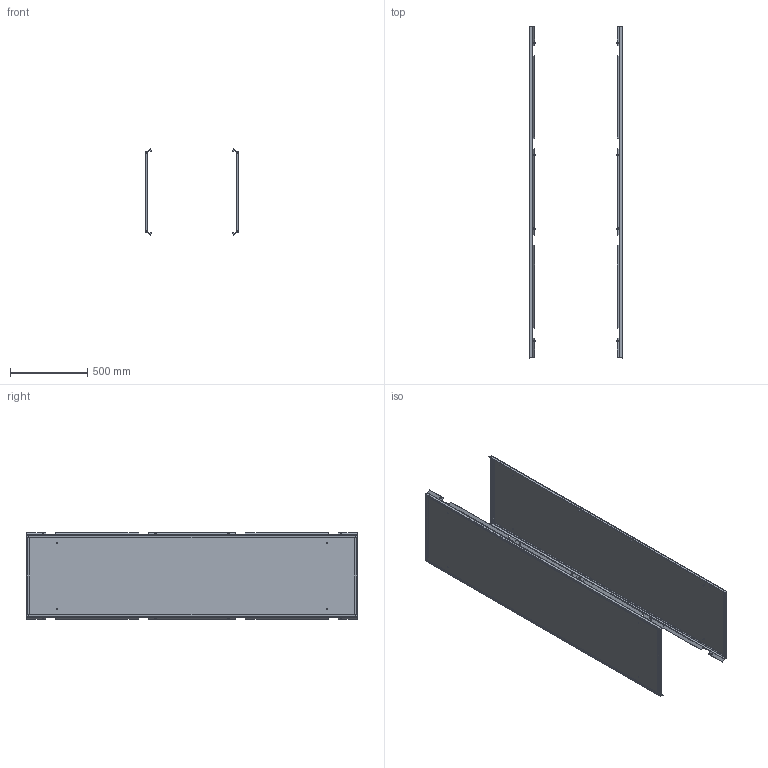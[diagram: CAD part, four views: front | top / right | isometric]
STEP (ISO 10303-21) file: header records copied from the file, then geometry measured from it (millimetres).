
FILE_DESCRIPTION (( 'STEP AP203' ), '1' );
FILE_NAME ('MA1.200.060622.20.00 AleSta-PS226 Áîêîâûå ïàíåëè AleSta 2200x600 (2 øò).STEP', '2025-02-19T14:41:11', ( '' ), ( '' ), 'SwSTEP 2.0', 'SolidWorks 2021', '' );
FILE_SCHEMA (( 'CONFIG_CONTROL_DESIGN' ));
Length unit declared in the file: millimetre
Products named in the file (6): Øïèëüêà Ì6õ12_˜¯¨«ìª  Œ6å12; Âèíò ñàìîíàðåçàþùèé ñ ïîòàéíîé ãîëîâêîé Ì5x16 DIN 7500 M TORX, êëàññ ïðî÷íîñòè 8.8, îöèíêîâàííàÿ ñòàëü_Œ5å16; MA1.200.060620.21.01 Ïîëîòíî ñòåíêè áîêîâîé 600õ2000_2200å600; MA1.200.060622.20.00 AleSta-PS226  Áîêîâûå ïàíåëè AleSta 2200x600 (2 øò); Óïëîòíèòåëü ïàíåëè íèæíåé_¯® ¢ëá®â¥ 600å2200; MA1.200.060620.21.00 Ñòåíêà áîêîâàÿ 600x2000_2200å600
Assembly tree (24 placements, depth 3):
  MA1.200.060622.20.00 AleSta-PS226  Áîêîâûå ïàíåëè AleSta 2200x600 (2 øò)
    MA1.200.060620.21.00 Ñòåíêà áîêîâàÿ 600x2000_2200å600  x2
      MA1.200.060620.21.01 Ïîëîòíî ñòåíêè áîêîâîé 600õ2000_2200å600
      Øïèëüêà Ì6õ12_˜¯¨«ìª  Œ6å12
      Óïëîòíèòåëü ïàíåëè íèæíåé_¯® ¢ëá®â¥ 600å2200
    Âèíò ñàìîíàðåçàþùèé ñ ïîòàéíîé ãîëîâêîé Ì5x16 DIN 7500 M TORX, êëàññ ïðî÷íîñòè 8.8, îöèíêîâàííàÿ ñòàëü_Œ5å16  x16
Bounding box: 606 x 2145 x 560.73 mm (x, y, z)
Volume: 3302868.7 mm3; surface area: 5610902.5 mm2
Topology: 28 solids, 28 shells, 1116 faces, 2788 edges, 1784 vertices
Faces by surface type: cylinder 636, plane 368, cone 80, bspline 16, torus 16
Entity records: 8629 total; most frequent: CARTESIAN_POINT 1714, DIRECTION 1281, ORIENTED_EDGE 1158, EDGE_CURVE 579, AXIS2_PLACEMENT_3D 475, VERTEX_POINT 360, VECTOR 331, LINE 331
